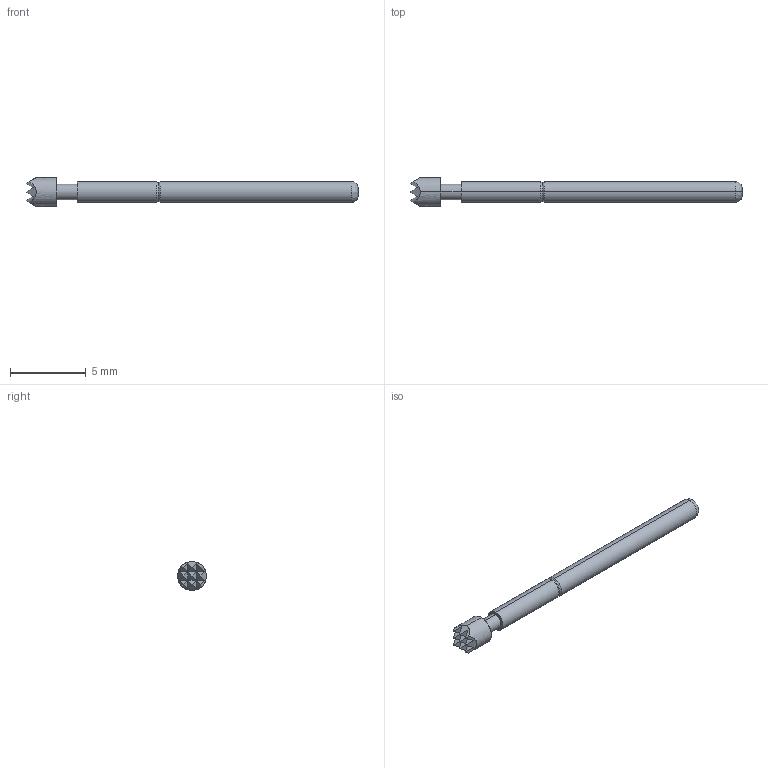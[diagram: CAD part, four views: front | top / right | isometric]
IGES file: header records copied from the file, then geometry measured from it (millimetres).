
Start section: SolidWorks IGES file using analytic representation for surfaces
Global section: file name: Z:\probe solid model mockups\Solidworks models\IGES Files\EPA-2\EPA-2H RECD.IGS; native system: SolidWorks 2006 by SolidWorks Corporation; preprocessor: SolidWorks 2006 by SolidWorks Corporation; author: tsakatani; date: 071220.162129; units: inch
Bounding box: 21.92 x 1.91 x 1.91 mm (x, y, z)
Surface area: 102.4 mm2 (no closed solid volume)
Topology: 0 solids, 0 shells, 45 faces, 294 edges, 294 vertices
Faces by surface type: bspline 37, revolution 8
